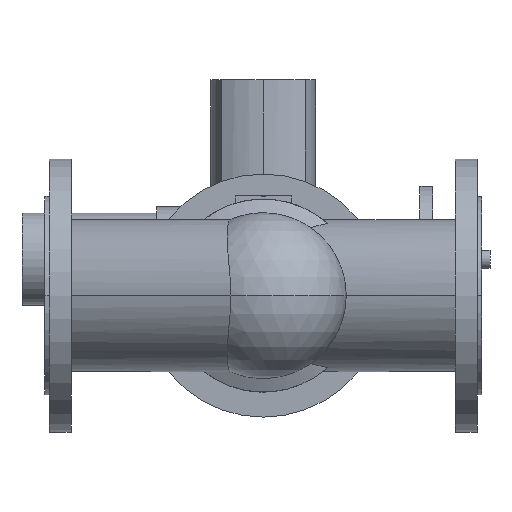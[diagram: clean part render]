
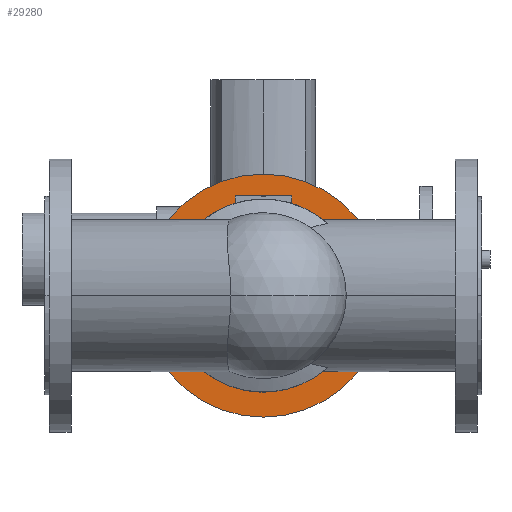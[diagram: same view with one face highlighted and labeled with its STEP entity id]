
A CAD part, front view. The second image highlights one B-rep face of the part: STEP entity #29280.
In plain terms, the highlighted planar face has unit normal (0, -1, 0).
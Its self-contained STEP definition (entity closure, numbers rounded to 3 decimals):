
#1320=CARTESIAN_POINT('',(106.5,143.2,0.));
#1330=VERTEX_POINT('',#1320);
#1380=CARTESIAN_POINT('',(240.,143.2,0.));
#1390=DIRECTION('',(0.,-1.,0.));
#1400=DIRECTION('',(-1.,0.,0.));
#1410=AXIS2_PLACEMENT_3D('',#1380,#1390,#1400);
#1420=CIRCLE('',#1410,133.5);
#1430=CARTESIAN_POINT('',(373.5,143.2,0.));
#1440=VERTEX_POINT('',#1430);
#1450=EDGE_CURVE('',#1330,#1440,#1420,.T.);
#1760=CARTESIAN_POINT('',(134.,143.2,0.));
#1770=VERTEX_POINT('',#1760);
#1800=CARTESIAN_POINT('',(240.,143.2,0.));
#1810=DIRECTION('',(0.,-1.,0.));
#1820=DIRECTION('',(-1.,0.,0.));
#1830=AXIS2_PLACEMENT_3D('',#1800,#1810,#1820);
#1840=CIRCLE('',#1830,106.);
#1850=CARTESIAN_POINT('',(346.,143.2,0.));
#1860=VERTEX_POINT('',#1850);
#1870=EDGE_CURVE('',#1860,#1770,#1840,.T.);
#29130=CARTESIAN_POINT('',(120.25,143.2,0.));
#29140=DIRECTION('',(0.,-1.,0.));
#29150=DIRECTION('',(-1.,0.,0.));
#29160=AXIS2_PLACEMENT_3D('',#29130,#29140,#29150);
#29170=PLANE('',#29160);
#29180=ORIENTED_EDGE('',*,*,#1870,.F.);
#29190=EDGE_CURVE('',#1770,#1860,#1840,.T.);
#29200=ORIENTED_EDGE('',*,*,#29190,.F.);
#29210=EDGE_LOOP('',(#29200,#29180));
#29220=FACE_BOUND('',#29210,.T.);
#29230=EDGE_CURVE('',#1440,#1330,#1420,.T.);
#29240=ORIENTED_EDGE('',*,*,#29230,.T.);
#29250=ORIENTED_EDGE('',*,*,#1450,.T.);
#29260=EDGE_LOOP('',(#29250,#29240));
#29270=FACE_OUTER_BOUND('',#29260,.T.);
#29280=ADVANCED_FACE('',(#29220,#29270),#29170,.T.);
